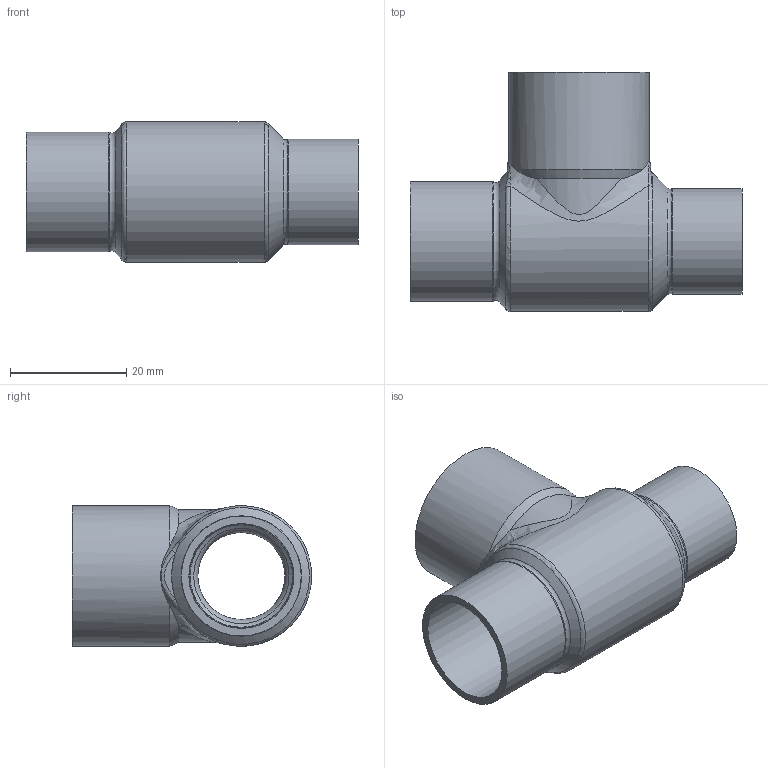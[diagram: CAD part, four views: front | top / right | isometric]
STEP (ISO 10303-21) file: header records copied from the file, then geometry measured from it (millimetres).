
FILE_DESCRIPTION(/* description */ (''),/* implementation_level */ '2;1');
FILE_NAME(/* name */ 'G:\Technik\Management\ontwikkeling\Ontwikkeling + Leveringsdokumenten + proefberichten\Sanha Ternat\Ternat 2024\Step files\5130182215_3d gem.stp',/* time_stamp */ '2024-02-29T10:10:48+01:00',/* author */ ('vdvijverd'),/* organization */ (''),/* preprocessor_version */ 'ST-DEVELOPER v19',/* originating_system */ 'Autodesk Inventor 2023',/* authorisation */ '');
FILE_SCHEMA (('AUTOMOTIVE_DESIGN { 1 0 10303 214 3 1 1 }'));
Length unit declared in the file: millimetre
Products named in the file (1): 5130182215_3d gem
Bounding box: 57 x 41.06 x 24.15 mm (x, y, z)
Volume: 6249.8 mm3; surface area: 9798.1 mm2
Topology: 1 solids, 1 shells, 53 faces, 140 edges, 84 vertices
Faces by surface type: bspline 15, torus 14, cylinder 12, cone 7, plane 5
Full cylindrical faces by diameter (mm): 15.12 x1, 18 x1, 18.1 x1, 20.58 x1, 22.15 x1, 24.15 x1
Entity records: 2323 total; most frequent: CARTESIAN_POINT 1036, ORIENTED_EDGE 272, DIRECTION 259, EDGE_CURVE 136, AXIS2_PLACEMENT_3D 124, VERTEX_POINT 84, CIRCLE 77, EDGE_LOOP 56
